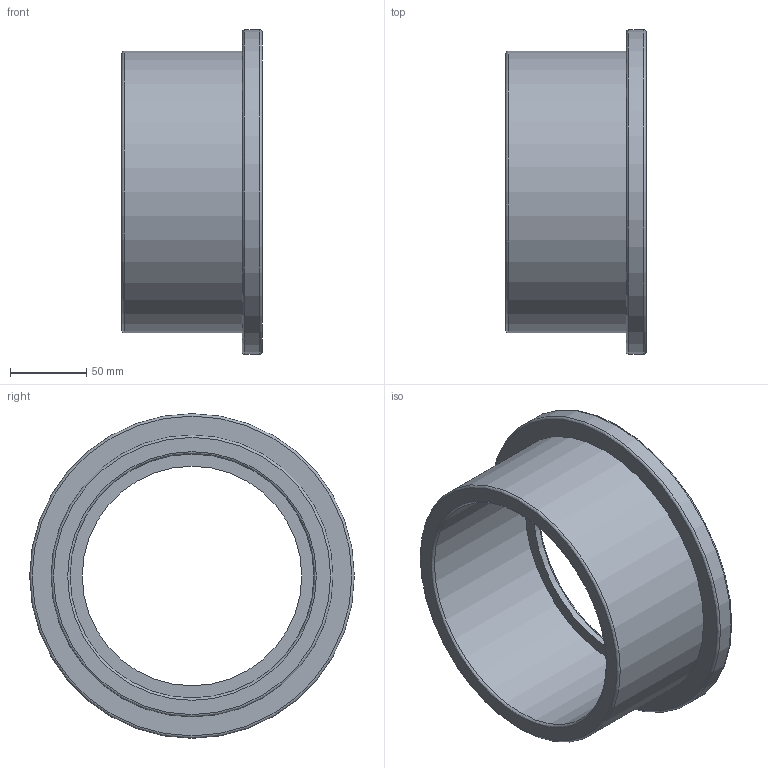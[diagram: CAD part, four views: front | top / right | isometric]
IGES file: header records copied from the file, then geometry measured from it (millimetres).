
Global section: file name: 055100160.ipt; native system: Autodesk Inventor 2015; preprocessor: unknown; author: KIM; date: 20180927.115436; units: millimetre
Bounding box: 92 x 213 x 213 mm (x, y, z)
Volume: 758338.7 mm3; surface area: 137274.4 mm2
Topology: 1 solids, 1 shells, 13 faces, 36 edges, 27 vertices
Faces by surface type: revolution 7, plane 4, cylinder 2
Full cylindrical faces by diameter (mm): 185 x1, 213 x1
